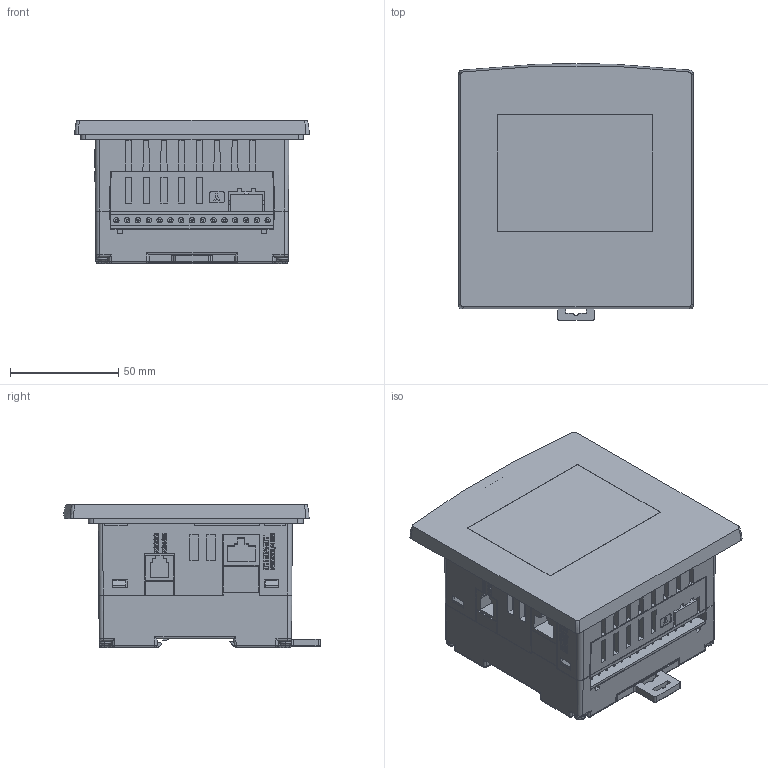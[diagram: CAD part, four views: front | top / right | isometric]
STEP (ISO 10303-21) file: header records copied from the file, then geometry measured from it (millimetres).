
FILE_DESCRIPTION (( 'STEP AP203' ), '1' );
FILE_NAME ('SAMBA 3.5.STEP', '2014-03-16T13:31:34', ( 'dell' ), ( '' ), 'SwSTEP 2.0', 'SolidWorks 2011', '' );
FILE_SCHEMA (( 'CONFIG_CONTROL_DESIGN' ));
Products named in the file (1): SAMBA 3.5
Bounding box: 108.43 x 118.57 x 66.2 mm (x, y, z)
Volume: 460072.7 mm3; surface area: 124497.4 mm2
Topology: 1 solids, 7 shells, 2543 faces, 7030 edges, 4608 vertices
Faces by surface type: plane 1736, bspline 436, cylinder 326, cone 45
Entity records: 102006 total; most frequent: CARTESIAN_POINT 41241, ORIENTED_EDGE 14052, DIRECTION 9821, EDGE_CURVE 7026, LINE 5263, VECTOR 5263, VERTEX_POINT 4610, EDGE_LOOP 2808
